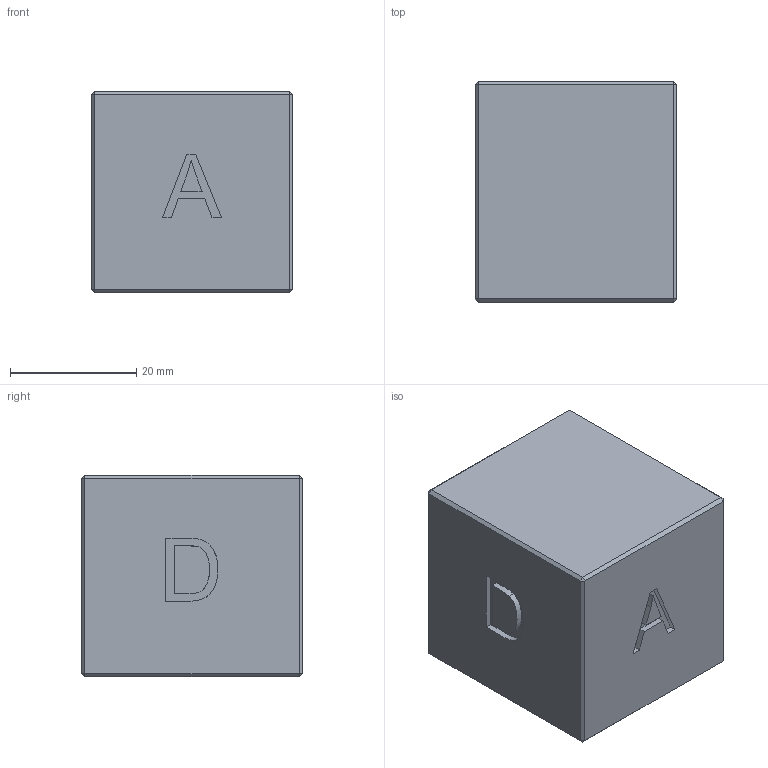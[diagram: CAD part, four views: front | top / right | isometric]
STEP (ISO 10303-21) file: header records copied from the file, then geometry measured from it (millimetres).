
FILE_DESCRIPTION(/* description */ (''),/* implementation_level */ '2;1');
FILE_NAME(/* name */ '物料.stp',/* time_stamp */ '2025-03-06T15:45:19+08:00',/* author */ (''),/* organization */ (''),/* preprocessor_version */ 'ST-DEVELOPER v16.7',/* originating_system */ 'SIEMENS PLM Software NX 12.0',/* authorisation */ '');
FILE_SCHEMA (('AP203_CONFIGURATION_CONTROLLED_3D_DESIGN_OF_MECHANICAL_PARTS_AND_ASSEMBLIES_MIM_LF { 1 0 10303 403 2 1 2}'));
Length unit declared in the file: millimetre
Products named in the file (1): 物料
Bounding box: 32 x 35 x 32 mm (x, y, z)
Volume: 35655 mm3; surface area: 6629.9 mm2
Topology: 1 solids, 1 shells, 70 faces, 156 edges, 96 vertices
Faces by surface type: plane 55, extrusion 15
Entity records: 2894 total; most frequent: CARTESIAN_POINT 908, ORIENTED_EDGE 312, DIRECTION 211, EDGE_CURVE 156, VECTOR 99, VERTEX_POINT 96, B_SPLINE_CURVE_WITH_KNOTS 87, LINE 84
